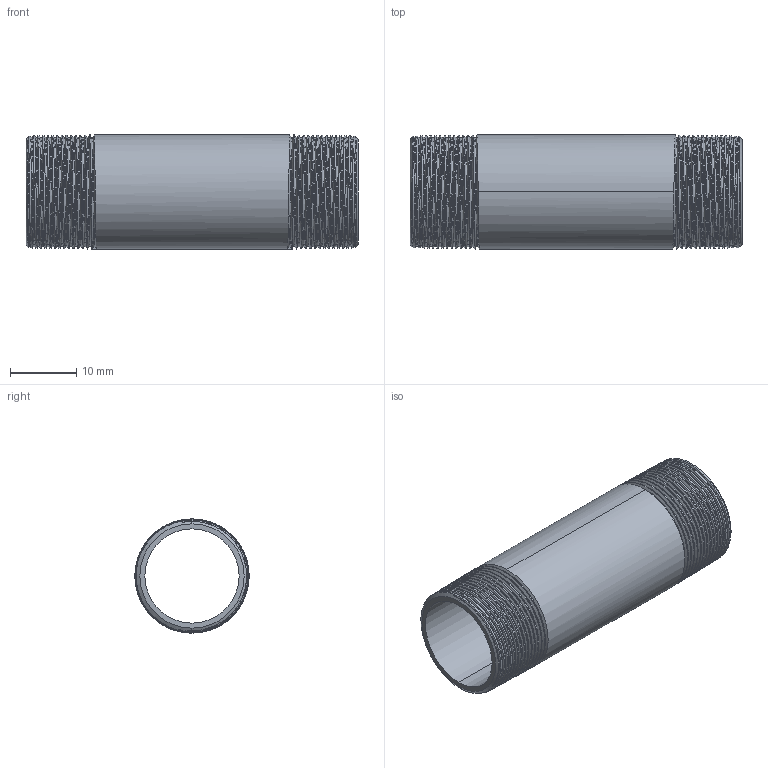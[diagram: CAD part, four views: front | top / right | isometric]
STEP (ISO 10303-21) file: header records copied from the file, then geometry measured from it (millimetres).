
FILE_DESCRIPTION (( 'STEP AP203' ), '1' );
FILE_NAME ('3D_R210_3-8x50_17185664.STEP', '2024-08-16T11:04:17', ( '' ), ( '' ), 'SwSTEP 2.0', 'SolidWorks 2024', '' );
FILE_SCHEMA (( 'CONFIG_CONTROL_DESIGN' ));
Length unit declared in the file: millimetre
Products named in the file (1): 3D_R210_3-8x50_17185664
Bounding box: 50 x 17.19 x 17.2 mm (x, y, z)
Volume: 3448 mm3; surface area: 5509.9 mm2
Topology: 1 solids, 1 shells, 76 faces, 218 edges, 144 vertices
Faces by surface type: cone 62, bspline 6, cylinder 4, plane 4
Entity records: 11224 total; most frequent: CARTESIAN_POINT 9454, ORIENTED_EDGE 436, DIRECTION 230, EDGE_CURVE 218, VERTEX_POINT 144, B_SPLINE_CURVE_WITH_KNOTS 132, AXIS2_PLACEMENT_3D 81, EDGE_LOOP 78
